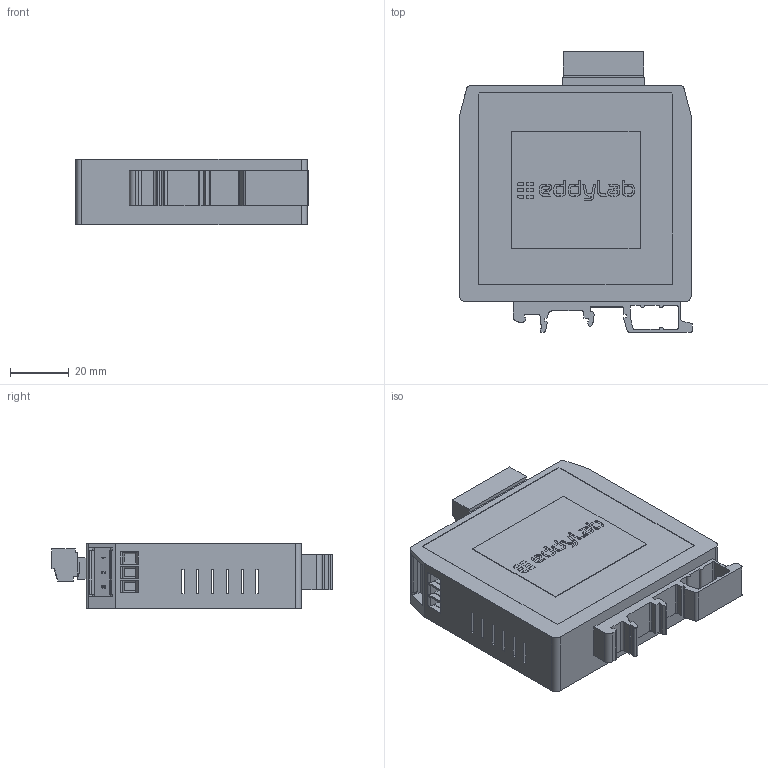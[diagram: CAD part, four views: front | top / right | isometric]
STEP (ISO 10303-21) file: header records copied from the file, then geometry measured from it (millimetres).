
FILE_DESCRIPTION( ( 'Unknown' ), '1' );
FILE_NAME( 'N:/Engineering/CAD/PMX/PMX-24.stp', 'Unknown', ( 'Unknown' ), ( 'Unknown' ), 'PSStep 17.0.49', 'Unknown', ' ' );
FILE_SCHEMA( ( 'AUTOMOTIVE_DESIGN { 1 0 10303 214 1 1 1 1 }' ) );
Length unit declared in the file: millimetre
Products named in the file (3): Assem1; IMCA-Stecker; PMX-3D
Assembly tree (2 placements, depth 2):
  Assem1
    IMCA-Stecker
    PMX-3D
Bounding box: 79.58 x 95.88 x 22.52 mm (x, y, z)
Volume: 51350.5 mm3; surface area: 42203 mm2
Topology: 2 solids, 2 shells, 1252 faces, 3356 edges, 2231 vertices
Faces by surface type: plane 989, cylinder 216, extrusion 40, cone 7
Full cylindrical faces by diameter (mm): 1.25 x7, 1.3 x6, 2.5 x2, 2.75 x7, 3.1 x2, 3.8 x6, 4 x6
Entity records: 50296 total; most frequent: CARTESIAN_POINT 8681, ORIENTED_EDGE 6588, DIRECTION 6190, EDGE_CURVE 3294, VECTOR 2748, LINE 2708, VERTEX_POINT 2218, AXIS2_PLACEMENT_3D 1721
